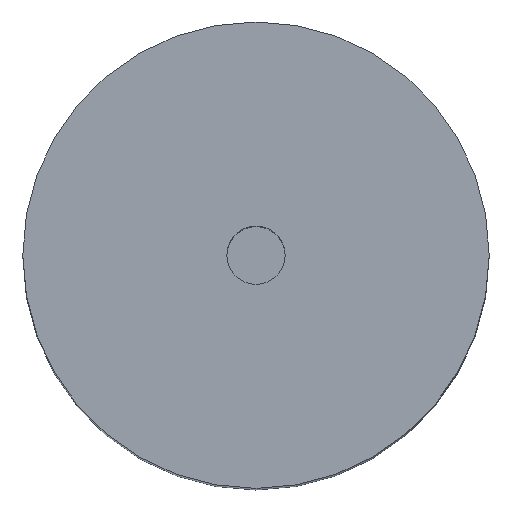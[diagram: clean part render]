
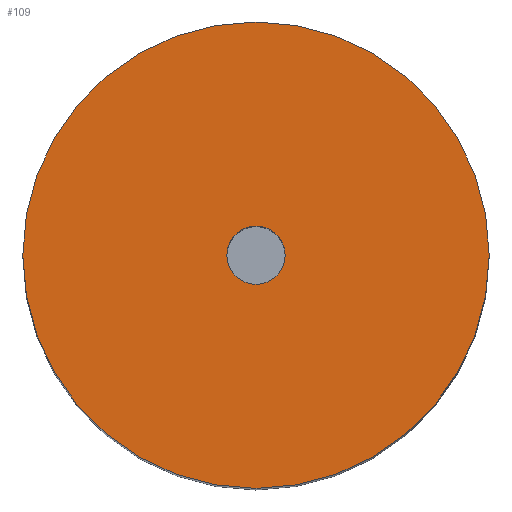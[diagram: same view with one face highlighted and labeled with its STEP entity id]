
A CAD part, top view. The second image highlights one B-rep face of the part: STEP entity #109.
In plain terms, the highlighted planar face has unit normal (0, 0, 1).
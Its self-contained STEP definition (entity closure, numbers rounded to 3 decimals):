
#24 = VERTEX_POINT('',#25);
#25 = CARTESIAN_POINT('',(10.,0.,40.));
#32 = CYLINDRICAL_SURFACE('',#33,10.);
#33 = AXIS2_PLACEMENT_3D('',#34,#35,#36);
#34 = CARTESIAN_POINT('',(0.,0.,0.));
#35 = DIRECTION('',(-0.,-0.,-1.));
#36 = DIRECTION('',(1.,0.,0.));
#51 = EDGE_CURVE('',#24,#24,#52,.T.);
#52 = SURFACE_CURVE('',#53,(#58,#65),.PCURVE_S1.);
#53 = CIRCLE('',#54,10.);
#54 = AXIS2_PLACEMENT_3D('',#55,#56,#57);
#55 = CARTESIAN_POINT('',(0.,0.,40.));
#56 = DIRECTION('',(0.,0.,1.));
#57 = DIRECTION('',(1.,0.,0.));
#58 = PCURVE('',#32,#59);
#59 = DEFINITIONAL_REPRESENTATION('',(#60),#64);
#60 = LINE('',#61,#62);
#61 = CARTESIAN_POINT('',(-0.,-40.));
#62 = VECTOR('',#63,1.);
#63 = DIRECTION('',(-1.,0.));
#64 = ( GEOMETRIC_REPRESENTATION_CONTEXT(2) 
PARAMETRIC_REPRESENTATION_CONTEXT() REPRESENTATION_CONTEXT('2D SPACE',''
  ) );
#65 = PCURVE('',#66,#71);
#66 = PLANE('',#67);
#67 = AXIS2_PLACEMENT_3D('',#68,#69,#70);
#68 = CARTESIAN_POINT('',(0.,0.,40.));
#69 = DIRECTION('',(0.,0.,1.));
#70 = DIRECTION('',(1.,0.,-0.));
#71 = DEFINITIONAL_REPRESENTATION('',(#72),#76);
#72 = CIRCLE('',#73,10.);
#73 = AXIS2_PLACEMENT_2D('',#74,#75);
#74 = CARTESIAN_POINT('',(0.,0.));
#75 = DIRECTION('',(1.,0.));
#76 = ( GEOMETRIC_REPRESENTATION_CONTEXT(2) 
PARAMETRIC_REPRESENTATION_CONTEXT() REPRESENTATION_CONTEXT('2D SPACE',''
  ) );
#109 = ADVANCED_FACE('',(#110,#113),#66,.T.);
#110 = FACE_BOUND('',#111,.T.);
#111 = EDGE_LOOP('',(#112));
#112 = ORIENTED_EDGE('',*,*,#51,.T.);
#113 = FACE_BOUND('',#114,.T.);
#114 = EDGE_LOOP('',(#115));
#115 = ORIENTED_EDGE('',*,*,#116,.T.);
#116 = EDGE_CURVE('',#117,#117,#119,.T.);
#117 = VERTEX_POINT('',#118);
#118 = CARTESIAN_POINT('',(1.25,0.,40.));
#119 = SURFACE_CURVE('',#120,(#125,#136),.PCURVE_S1.);
#120 = CIRCLE('',#121,1.25);
#121 = AXIS2_PLACEMENT_3D('',#122,#123,#124);
#122 = CARTESIAN_POINT('',(0.,0.,40.));
#123 = DIRECTION('',(0.,0.,-1.));
#124 = DIRECTION('',(1.,0.,0.));
#125 = PCURVE('',#66,#126);
#126 = DEFINITIONAL_REPRESENTATION('',(#127),#135);
#127 = ( BOUNDED_CURVE() B_SPLINE_CURVE(2,(#128,#129,#130,#131,#132,#133
,#134),.UNSPECIFIED.,.T.,.F.) B_SPLINE_CURVE_WITH_KNOTS((1,2,2,2,2,1),(
    -2.094,0.,2.094,4.189,6.283,
8.378),.UNSPECIFIED.) CURVE() GEOMETRIC_REPRESENTATION_ITEM() 
RATIONAL_B_SPLINE_CURVE((1.,0.5,1.,0.5,1.,0.5,1.)) REPRESENTATION_ITEM(
  '') );
#128 = CARTESIAN_POINT('',(1.25,0.));
#129 = CARTESIAN_POINT('',(1.25,-2.165));
#130 = CARTESIAN_POINT('',(-0.625,-1.083));
#131 = CARTESIAN_POINT('',(-2.5,0.));
#132 = CARTESIAN_POINT('',(-0.625,1.083));
#133 = CARTESIAN_POINT('',(1.25,2.165));
#134 = CARTESIAN_POINT('',(1.25,0.));
#135 = ( GEOMETRIC_REPRESENTATION_CONTEXT(2) 
PARAMETRIC_REPRESENTATION_CONTEXT() REPRESENTATION_CONTEXT('2D SPACE',''
  ) );
#136 = PCURVE('',#137,#142);
#137 = CYLINDRICAL_SURFACE('',#138,1.25);
#138 = AXIS2_PLACEMENT_3D('',#139,#140,#141);
#139 = CARTESIAN_POINT('',(0.,0.,25.));
#140 = DIRECTION('',(-0.,-0.,-1.));
#141 = DIRECTION('',(1.,0.,0.));
#142 = DEFINITIONAL_REPRESENTATION('',(#143),#147);
#143 = LINE('',#144,#145);
#144 = CARTESIAN_POINT('',(-6.283,-15.));
#145 = VECTOR('',#146,1.);
#146 = DIRECTION('',(1.,-0.));
#147 = ( GEOMETRIC_REPRESENTATION_CONTEXT(2) 
PARAMETRIC_REPRESENTATION_CONTEXT() REPRESENTATION_CONTEXT('2D SPACE',''
  ) );
